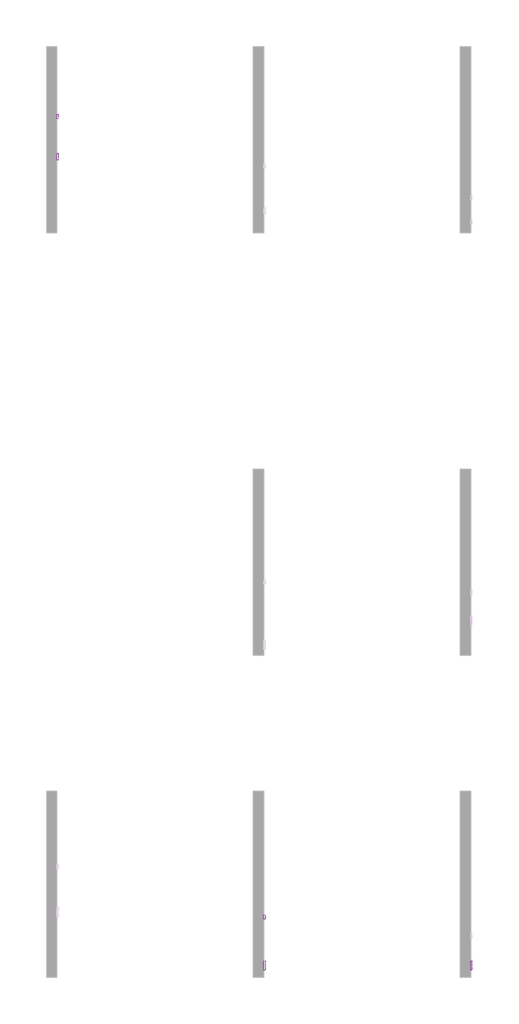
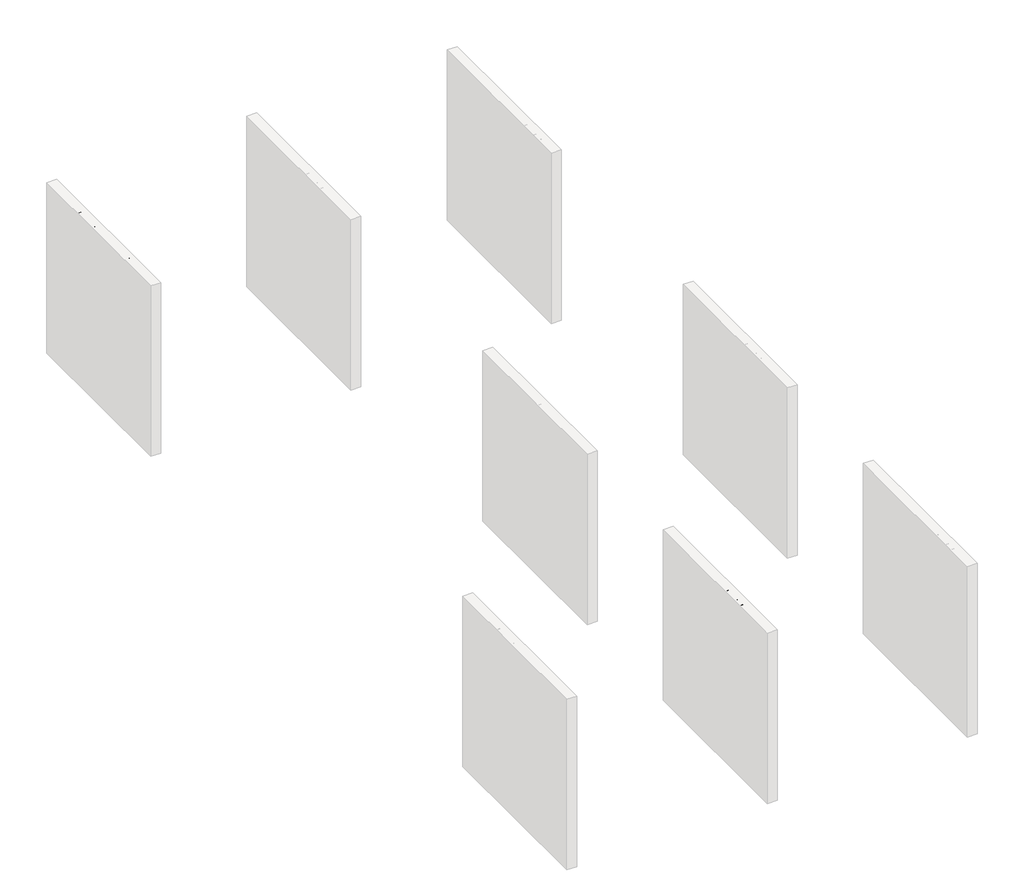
# One storey, part 7 of 12: 5 proxies.
"""IFC4 building model written with IfcOpenShell, lengths in millimetres."""

from ifc_helpers import new_model, si_unit, frame, origin, place, context, project, spatial, polyline, outline, extrude, element, save

model = new_model("IFC4")

# Units and contexts
model_context = context("Model", 3, world=origin())
ifc_project = project(units=[si_unit("LENGTHUNIT", "METRE", prefix="MILLI")], contexts=[model_context])

# Site, building, storey
site = spatial("IfcSite", under=ifc_project)
building = spatial("IfcBuilding", under=site)
storey = spatial("IfcBuildingStorey", under=building, Name="PORTOBELLO - SHOWROOM", Elevation=0.0)

# Proxies
placement = place(None, origin())
element("IfcBuildingElementProxy", 1, Name="10mm Arial", ObjectType="10mm Arial", at=placement, inside=storey, context=model_context, shape_type="SweptSolid", body=[
    extrude(outline(polyline([(12693.8323356, 2517.8467461), (12693.8323356, 2618.3030562), (12715.4392714, 2618.3030562), (12735.9916122, 2547.4980349), (12740.136416, 2532.7091787), (12744.6245764, 2548.7243082), (12764.8335607, 2618.3030562), (12786.4404965, 2618.3030562), (12786.4404965, 2517.8467461), (12773.8834577, 2517.8467461), (12773.8834577, 2605.7460174), (12748.6467529, 2517.8467461), (12731.6260792, 2517.8467461), (12706.3893744, 2605.7460174), (12706.3893744, 2517.8467461), (12693.8323356, 2517.8467461)])), frame((31348.9976597, 0.0, 0.0), z_axis=(1.0, 0.0, 0.0), x_axis=(0.0, 1.0, 0.0)), (0.0, 0.0, 1.0), 20.0),
    extrude(outline(polyline([(12803.7064248, 2554.7330474), (12806.4226202, 2572.5201419), (12814.5712064, 2585.0219984), (12824.6389103, 2591.1472336), (12836.693177, 2593.1889787), (12849.8848123, 2590.7027095), (12860.4215657, 2583.2439021), (12867.3285502, 2571.4011675), (12869.6308784, 2555.763117), (12865.5596509, 2533.4204172), (12853.701588, 2520.7775393), (12836.693177, 2516.2771162), (12823.3421263, 2518.7541883), (12812.8176356, 2526.1854046), (12805.9842275, 2538.2764595), (12803.7064248, 2554.7330474)]), holes=[polyline([(12816.2634636, 2554.7575729), (12817.7165975, 2543.3930849), (12822.0759991, 2535.2966154), (12828.6365614, 2530.4497701), (12836.693177, 2528.834155), (12844.7130045, 2530.4589671), (12851.2613041, 2535.3334036), (12855.6207057, 2543.537172), (12857.0738396, 2555.1499804), (12855.6115087, 2566.1833745), (12851.2245159, 2574.1694795), (12844.6670193, 2579.0163248), (12836.693177, 2580.6319399), (12828.6365614, 2579.0224562), (12822.0759991, 2574.194005), (12817.7165975, 2566.1159295), (12816.2634636, 2554.7575729)])]), frame((31348.9976597, 0.0, 0.0), z_axis=(1.0, 0.0, 0.0), x_axis=(0.0, 1.0, 0.0)), (0.0, 0.0, 1.0), 20.0),
    extrude(outline(polyline([(12879.0486574, 2539.8215639), (12891.6056962, 2541.3911937), (12897.4182317, 2532.0715165), (12910.7355599, 2528.834155), (12923.5378534, 2531.8017364), (12927.7071827, 2538.7669688), (12923.5133279, 2544.4078261), (12910.5884071, 2547.9885442), (12891.6792726, 2554.1321735), (12883.4264532, 2561.3058724), (12880.6182873, 2571.43489), (12882.8746302, 2580.7913554), (12889.0305222, 2587.9405289), (12897.0135615, 2591.656137), (12907.8170295, 2593.1889787), (12923.096395, 2590.7241693), (12932.8084797, 2584.0532424), (12937.1249617, 2572.7837907), (12924.567923, 2571.2141608), (12919.8467707, 2578.1426051), (12908.7980481, 2580.6319399), (12896.7805696, 2578.2529697), (12893.175326, 2572.7102143), (12894.6713795, 2569.0559198), (12899.3557436, 2566.2845421), (12910.1714742, 2563.6112663), (12928.6023622, 2557.7006289), (12937.1617499, 2551.0051765), (12940.2642214, 2540.091344), (12936.6221897, 2528.0738655), (12926.1130273, 2519.3550622), (12910.5638817, 2516.2771162), (12897.9026097, 2517.7609069), (12888.6626402, 2522.2122791), (12882.4944854, 2529.5821817), (12879.0486574, 2539.8215639)])), frame((31348.9976597, 0.0, 0.0), z_axis=(1.0, 0.0, 0.0), x_axis=(0.0, 1.0, 0.0)), (0.0, 0.0, 1.0), 20.0),
    extrude(outline(polyline([(13042.2901614, 2557.0874922), (13042.2901614, 2569.644531), (13083.1005374, 2569.644531), (13083.1005374, 2532.096042), (13062.9528668, 2520.2502418), (13041.6524993, 2516.2771162), (13027.5656846, 2517.8559431), (13014.8339018, 2522.5924238), (13004.2572945, 2530.3210114), (12996.6360058, 2540.8761589), (12992.0282838, 2553.537431), (12990.4923765, 2567.5843918), (12992.0221525, 2581.7325202), (12996.6114804, 2594.8934986), (13004.0702878, 2605.9330241), (13014.2085025, 2613.716794), (13026.5570748, 2618.333713), (13040.6469552, 2619.872686), (13060.2918537, 2616.3042307), (13074.0629031, 2606.3714168), (13081.6535349, 2589.7554134), (13070.0775148, 2586.4935264), (13064.3508184, 2598.1063347), (13054.5651573, 2604.801787), (13040.4507514, 2607.3156473), (13024.3743083, 2604.6055832), (13013.4359503, 2597.493198), (13006.9734899, 2587.8179015), (13003.0494153, 2568.0994266), (13007.7705675, 2546.2104479), (13021.5048287, 2533.1138489), (13040.6469552, 2528.834155), (13057.8270444, 2532.0592538), (13070.5434987, 2538.9386471), (13070.5434987, 2557.0874922), (13042.2901614, 2557.0874922)])), frame((31348.9976597, 0.0, 0.0), z_axis=(1.0, 0.0, 0.0), x_axis=(0.0, 1.0, 0.0)), (0.0, 0.0, 1.0), 20.0),
    extrude(outline(polyline([(13149.024991, 2527.2645251), (13136.8480969, 2518.7541883), (13123.3958786, 2516.2771162), (13112.9020447, 2517.7670383), (13105.1611944, 2522.2368045), (13100.3879255, 2529.0242273), (13098.7968359, 2537.4671191), (13101.2003316, 2547.399933), (13107.5156392, 2554.6104201), (13116.3080189, 2558.7306984), (13127.1728004, 2560.6191594), (13148.9514146, 2564.9356414), (13149.024991, 2567.7315446), (13145.5669002, 2577.0021709), (13131.6854862, 2580.6319399), (13118.9812947, 2578.2161815), (13112.9235045, 2569.644531), (13100.3664657, 2571.2141608), (13105.7988565, 2583.476894), (13116.7372145, 2590.6628556), (13133.304167, 2593.1889787), (13148.5222189, 2590.9571612), (13157.1183948, 2585.3530922), (13160.9688931, 2576.8304926), (13161.5820297, 2565.8430837), (13161.5820297, 2550.2203616), (13162.2196918, 2528.4049593), (13164.7212894, 2517.8467461), (13152.1642506, 2517.8467461), (13149.024991, 2527.2645251)]), holes=[polyline([(13149.024991, 2552.3786027), (13128.7669558, 2548.5281044), (13117.9634878, 2546.4924907), (13113.0706573, 2543.1815528), (13111.3538746, 2538.3500359), (13115.0940083, 2531.5564817), (13126.0691545, 2528.834155), (13138.773346, 2531.8385246), (13146.9648518, 2539.1103254), (13148.9514146, 2548.82241), (13149.024991, 2552.3786027)])]), frame((31348.9976597, 0.0, 0.0), z_axis=(1.0, 0.0, 0.0), x_axis=(0.0, 1.0, 0.0)), (0.0, 0.0, 1.0), 20.0),
    extrude(outline(polyline([(13178.847958, 2517.8467461), (13178.847958, 2591.6193488), (13189.835367, 2591.6193488), (13189.835367, 2580.7055163), (13197.6344653, 2590.7609575), (13205.4826145, 2593.1889787), (13218.0887042, 2589.313955), (13213.8948494, 2578.0567659), (13205.0656816, 2580.6319399), (13197.965559, 2578.1548678), (13193.4406105, 2571.2877372), (13191.4049968, 2556.6215083), (13191.4049968, 2517.8467461), (13178.847958, 2517.8467461)])), frame((31348.9976597, 0.0, 0.0), z_axis=(1.0, 0.0, 0.0), x_axis=(0.0, 1.0, 0.0)), (0.0, 0.0, 1.0), 20.0),
    extrude(outline(polyline([(13252.6205608, 2528.3191202), (13254.1901906, 2517.4788641), (13244.796937, 2516.2771162), (13234.275512, 2518.3617808), (13229.0270622, 2523.8309598), (13227.5064833, 2538.0802558), (13227.5064833, 2579.06231), (13218.0887042, 2579.06231), (13218.0887042, 2589.313955), (13218.0887042, 2591.6193488), (13227.5064833, 2591.6193488), (13227.5064833, 2609.5474647), (13240.063522, 2616.9296301), (13240.063522, 2591.6193488), (13252.6205608, 2591.6193488), (13252.6205608, 2579.06231), (13240.063522, 2579.06231), (13240.063522, 2538.4481378), (13240.7257096, 2531.9734147), (13242.8716879, 2529.6802836), (13247.1513818, 2528.834155), (13252.6205608, 2528.3191202)])), frame((31348.9976597, 0.0, 0.0), z_axis=(1.0, 0.0, 0.0), x_axis=(0.0, 1.0, 0.0)), (0.0, 0.0, 1.0), 20.0),
    extrude(outline(polyline([(13316.8282317, 2539.8215639), (13329.1400158, 2538.2519341), (13324.7039721, 2528.9751764), (13317.6253093, 2522.0406008), (13308.0634432, 2517.7179874), (13296.177789, 2516.2771162), (13281.4441151, 2518.7633854), (13270.1072183, 2526.2221928), (13262.8783371, 2538.1691606), (13260.46871, 2554.1199108), (13262.9028626, 2570.6071555), (13270.2053202, 2582.9373337), (13281.3889328, 2590.6260674), (13295.4665505, 2593.1889787), (13309.1057755, 2590.6321988), (13320.0042796, 2582.9618592), (13327.1503873, 2570.6562065), (13329.5324233, 2554.1934872), (13329.4588469, 2550.8089728), (13273.0257488, 2550.8089728), (13275.1993183, 2541.4095878), (13280.2484986, 2534.4995377), (13287.5356278, 2530.2505007), (13296.4230437, 2528.834155), (13308.7348278, 2531.4583799), (13316.8282317, 2539.8215639)]), holes=[polyline([(13273.0257488, 2563.3660116), (13316.9753845, 2563.3660116), (13311.9476639, 2574.745828), (13304.6268122, 2579.1604119), (13295.4174996, 2580.6319399), (13279.954193, 2575.9353131), (13275.0889537, 2570.4446743), (13273.0257488, 2563.3660116)])]), frame((31348.9976597, 0.0, 0.0), z_axis=(1.0, 0.0, 0.0), x_axis=(0.0, 1.0, 0.0)), (0.0, 0.0, 1.0), 20.0),
    extrude(outline(polyline([(13342.089462, 2517.8467461), (13342.089462, 2591.6193488), (13354.6465008, 2591.6193488), (13354.6465008, 2581.318653), (13364.2482209, 2590.2213972), (13377.3570826, 2593.1889787), (13389.2151456, 2590.7977457), (13397.3085495, 2584.5192263), (13401.0732086, 2575.2853882), (13401.7353962, 2563.1452824), (13401.7353962, 2517.8467461), (13389.1783574, 2517.8467461), (13389.1783574, 2561.4530252), (13387.7313549, 2572.5630615), (13382.6177952, 2578.4369107), (13373.9970937, 2580.6319399), (13360.3731972, 2575.7023212), (13356.0781749, 2568.5592791), (13354.6465008, 2556.9893903), (13354.6465008, 2517.8467461), (13342.089462, 2517.8467461)])), frame((31348.9976597, 0.0, 0.0), z_axis=(1.0, 0.0, 0.0), x_axis=(0.0, 1.0, 0.0)), (0.0, 0.0, 1.0), 20.0),
    extrude(outline(polyline([(13451.9635512, 2517.8467461), (13451.9635512, 2530.8697687), (13503.3444032, 2593.7775899), (13513.1055388, 2605.7460174), (13458.2420706, 2605.7460174), (13458.2420706, 2618.3030562), (13528.8754137, 2618.3030562), (13528.8754137, 2605.7460174), (13472.6385194, 2536.9030334), (13467.3410186, 2530.4037848), (13530.4450436, 2530.4037848), (13530.4450436, 2517.8467461), (13451.9635512, 2517.8467461)])), frame((31348.9976597, 0.0, 0.0), z_axis=(1.0, 0.0, 0.0), x_axis=(0.0, 1.0, 0.0)), (0.0, 0.0, 1.0), 20.0),
    extrude(outline(polyline([(13594.6527144, 2539.8215639), (13606.9644986, 2538.2519341), (13602.5284548, 2528.9751764), (13595.4497921, 2522.0406008), (13585.8879259, 2517.7179874), (13574.0022718, 2516.2771162), (13559.2685979, 2518.7633854), (13547.9317011, 2526.2221928), (13540.7028199, 2538.1691606), (13538.2931928, 2554.1199108), (13540.7273453, 2570.6071555), (13548.0298029, 2582.9373337), (13559.2134156, 2590.6260674), (13573.2910333, 2593.1889787), (13586.9302582, 2590.6321988), (13597.8287623, 2582.9618592), (13604.9748701, 2570.6562065), (13607.356906, 2554.1934872), (13607.2833296, 2550.8089728), (13550.8502316, 2550.8089728), (13553.023801, 2541.4095878), (13558.0729814, 2534.4995377), (13565.3601106, 2530.2505007), (13574.2475264, 2528.834155), (13586.5593106, 2531.4583799), (13594.6527144, 2539.8215639)]), holes=[polyline([(13550.8502316, 2563.3660116), (13594.7998672, 2563.3660116), (13589.7721466, 2574.745828), (13582.4512949, 2579.1604119), (13573.2419823, 2580.6319399), (13557.7786758, 2575.9353131), (13552.9134364, 2570.4446743), (13550.8502316, 2563.3660116)])]), frame((31348.9976597, 0.0, 0.0), z_axis=(1.0, 0.0, 0.0), x_axis=(0.0, 1.0, 0.0)), (0.0, 0.0, 1.0), 20.0),
    extrude(outline(polyline([(13619.9139448, 2517.8467461), (13619.9139448, 2591.6193488), (13632.4709835, 2591.6193488), (13632.4709835, 2579.479243), (13641.1039477, 2589.4243196), (13653.3912063, 2593.1889787), (13665.9727706, 2589.3507432), (13672.8889521, 2578.5963262), (13682.6868759, 2589.5408155), (13695.0599737, 2593.1889787), (13704.4992125, 2591.6714654), (13711.4797734, 2587.1189257), (13715.7931898, 2579.4087323), (13717.2309952, 2568.4182577), (13717.2309952, 2517.8467461), (13704.6739565, 2517.8467461), (13704.6739565, 2563.0226551), (13703.5089968, 2573.5072919), (13699.2906166, 2578.6699026), (13692.1169177, 2580.6319399), (13679.7683454, 2575.6042193), (13676.0803284, 2569.0620511), (13674.8509894, 2559.4909879), (13674.8509894, 2517.8467461), (13662.2939506, 2517.8467461), (13662.2939506, 2564.4206066), (13659.3876829, 2576.5852379), (13649.8595392, 2580.6319399), (13640.5643874, 2577.9341386), (13634.3839699, 2570.0369384), (13632.4709835, 2555.0518785), (13632.4709835, 2517.8467461), (13619.9139448, 2517.8467461)])), frame((31348.9976597, 0.0, 0.0), z_axis=(1.0, 0.0, 0.0), x_axis=(0.0, 1.0, 0.0)), (0.0, 0.0, 1.0), 20.0),
    extrude(outline(polyline([(13787.7171855, 2539.8215639), (13800.0289696, 2538.2519341), (13795.5929259, 2528.9751764), (13788.5142632, 2522.0406008), (13778.952397, 2517.7179874), (13767.0667429, 2516.2771162), (13752.3330689, 2518.7633854), (13740.9961721, 2526.2221928), (13733.7672909, 2538.1691606), (13731.3576639, 2554.1199108), (13733.7918164, 2570.6071555), (13741.094274, 2582.9373337), (13752.2778866, 2590.6260674), (13766.3555043, 2593.1889787), (13779.9947293, 2590.6321988), (13790.8932334, 2582.9618592), (13798.0393412, 2570.6562065), (13800.4213771, 2554.1934872), (13800.3478007, 2550.8089728), (13743.9147026, 2550.8089728), (13746.0882721, 2541.4095878), (13751.1374525, 2534.4995377), (13758.4245816, 2530.2505007), (13767.3119975, 2528.834155), (13779.6237816, 2531.4583799), (13787.7171855, 2539.8215639)]), holes=[polyline([(13743.9147026, 2563.3660116), (13787.8643383, 2563.3660116), (13782.8366177, 2574.745828), (13775.515766, 2579.1604119), (13766.3064534, 2580.6319399), (13750.8431469, 2575.9353131), (13745.9779075, 2570.4446743), (13743.9147026, 2563.3660116)])]), frame((31348.9976597, 0.0, 0.0), z_axis=(1.0, 0.0, 0.0), x_axis=(0.0, 1.0, 0.0)), (0.0, 0.0, 1.0), 20.0),
    extrude(outline(polyline([(13812.9784158, 2517.8467461), (13812.9784158, 2591.6193488), (13825.5354546, 2591.6193488), (13825.5354546, 2581.318653), (13835.1371747, 2590.2213972), (13848.2460365, 2593.1889787), (13860.1040994, 2590.7977457), (13868.1975033, 2584.5192263), (13871.9621624, 2575.2853882), (13872.62435, 2563.1452824), (13872.62435, 2517.8467461), (13860.0673112, 2517.8467461), (13860.0673112, 2561.4530252), (13858.6203087, 2572.5630615), (13853.506749, 2578.4369107), (13844.8860476, 2580.6319399), (13831.262151, 2575.7023212), (13826.9671287, 2568.5592791), (13825.5354546, 2556.9893903), (13825.5354546, 2517.8467461), (13812.9784158, 2517.8467461)])), frame((31348.9976597, 0.0, 0.0), z_axis=(1.0, 0.0, 0.0), x_axis=(0.0, 1.0, 0.0)), (0.0, 0.0, 1.0), 20.0),
    extrude(outline(polyline([(13916.5739857, 2528.3191202), (13918.1436155, 2517.4788641), (13908.7503619, 2516.2771162), (13898.2289369, 2518.3617808), (13892.9804871, 2523.8309598), (13891.4599082, 2538.0802558), (13891.4599082, 2579.06231), (13882.0421291, 2579.06231), (13882.0421291, 2591.6193488), (13891.4599082, 2591.6193488), (13891.4599082, 2609.5474647), (13904.0169469, 2616.9296301), (13904.0169469, 2591.6193488), (13916.5739857, 2591.6193488), (13916.5739857, 2579.06231), (13904.0169469, 2579.06231), (13904.0169469, 2538.4481378), (13904.6791345, 2531.9734147), (13906.8251128, 2529.6802836), (13911.1048067, 2528.834155), (13916.5739857, 2528.3191202)])), frame((31348.9976597, 0.0, 0.0), z_axis=(1.0, 0.0, 0.0), x_axis=(0.0, 1.0, 0.0)), (0.0, 0.0, 1.0), 20.0),
    extrude(outline(polyline([(13969.9414005, 2517.8467461), (13969.9414005, 2618.3030562), (13991.5483363, 2618.3030562), (14012.1006771, 2547.4980349), (14016.2454809, 2532.7091787), (14020.7336413, 2548.7243082), (14040.9426255, 2618.3030562), (14062.5495614, 2618.3030562), (14062.5495614, 2517.8467461), (14049.9925226, 2517.8467461), (14049.9925226, 2605.7460174), (14024.7558177, 2517.8467461), (14007.7351441, 2517.8467461), (13982.4984392, 2605.7460174), (13982.4984392, 2517.8467461), (13969.9414005, 2517.8467461)])), frame((31348.9976597, 0.0, 0.0), z_axis=(1.0, 0.0, 0.0), x_axis=(0.0, 1.0, 0.0)), (0.0, 0.0, 1.0), 20.0),
    extrude(outline(polyline([(31368.9976597, 14095.5117881), (31368.9976597, 14082.9547494), (31348.9976597, 14082.9547494), (31348.9976597, 14095.5117881), (31368.9976597, 14095.5117881)])), frame((0.0, 0.0, 2605.7460174), z_axis=(0.0, 0.0, 1.0), x_axis=(1.0, 0.0, 0.0)), (0.0, 0.0, 1.0), 12.5570388),
    extrude(outline(polyline([(31368.9976597, 14095.5117881), (31368.9976597, 14082.9547494), (31348.9976597, 14082.9547494), (31348.9976597, 14095.5117881), (31368.9976597, 14095.5117881)])), frame((0.0, 0.0, 2517.8467461), z_axis=(0.0, 0.0, 1.0), x_axis=(1.0, 0.0, 0.0)), (0.0, 0.0, 1.0), 73.7726028),
    extrude(outline(polyline([(14106.4991971, 2517.8467461), (14133.3300572, 2554.9292512), (14108.0688269, 2591.6193488), (14123.1765142, 2591.6193488), (14135.365671, 2573.961013), (14141.0555791, 2565.6223545), (14145.9851979, 2572.4404341), (14159.8666118, 2591.6193488), (14174.9742991, 2591.6193488), (14148.4377445, 2554.9292512), (14173.9932804, 2517.8467461), (14158.8855932, 2517.8467461), (14143.5081258, 2540.140395), (14140.6876972, 2544.2116224), (14121.6068843, 2517.8467461), (14106.4991971, 2517.8467461)])), frame((31348.9976597, 0.0, 0.0), z_axis=(1.0, 0.0, 0.0), x_axis=(0.0, 1.0, 0.0)), (0.0, 0.0, 1.0), 20.0),
])
element("IfcBuildingElementProxy", 2, Name="10mm Arial", ObjectType="10mm Arial", at=placement, inside=storey, context=model_context, shape_type="SweptSolid", body=[
    extrude(outline(polyline([(1899.8415479, 2518.9109306), (1872.446602, 2619.3672407), (1885.3960482, 2619.3672407), (1901.2885504, 2553.3446853), (1906.1936437, 2532.9640228), (1911.4420935, 2550.9902405), (1931.3567721, 2619.3672407), (1950.020652, 2619.3672407), (1964.4906772, 2569.8012732), (1975.2573569, 2532.9640228), (1980.0152974, 2552.7560741), (1996.0549524, 2619.3672407), (2009.0043986, 2619.3672407), (1981.5849272, 2518.9109306), (1968.1694971, 2518.9109306), (1944.0854892, 2596.4114042), (1940.7255003, 2607.2271349), (1936.9485785, 2594.2041122), (1914.9982861, 2518.9109306), (1899.8415479, 2518.9109306)])), frame((34348.7766485, 0.0, 0.0), z_axis=(1.0, 0.0, 0.0), x_axis=(0.0, 1.0, 0.0)), (0.0, 0.0, 1.0), 20.0),
    extrude(outline(polyline([(2071.6424396, 2540.8857484), (2083.9542237, 2539.3161186), (2079.51818, 2530.0393609), (2072.4395173, 2523.1047853), (2062.8776511, 2518.7821719), (2050.991997, 2517.3413007), (2036.2583231, 2519.8275699), (2024.9214262, 2527.2863773), (2017.692545, 2539.2333451), (2015.282918, 2555.1840953), (2017.7170705, 2571.67134), (2025.0195281, 2584.0015182), (2036.2031408, 2591.6902519), (2050.2807584, 2594.2531632), (2063.9199834, 2591.6963833), (2074.8184875, 2584.0260437), (2081.9645953, 2571.720391), (2084.3466312, 2555.2576717), (2084.2730548, 2551.8731573), (2027.8399567, 2551.8731573), (2030.0135262, 2542.4737723), (2035.0627066, 2535.5637222), (2042.3498358, 2531.3146852), (2051.2372516, 2529.8983395), (2063.5490357, 2532.5225644), (2071.6424396, 2540.8857484)]), holes=[polyline([(2027.8399567, 2564.4301961), (2071.7895924, 2564.4301961), (2066.7618718, 2575.8100125), (2059.4410201, 2580.2245964), (2050.2317075, 2581.6961244), (2034.768401, 2576.9994976), (2029.9031616, 2571.5088588), (2027.8399567, 2564.4301961)])]), frame((34348.7766485, 0.0, 0.0), z_axis=(1.0, 0.0, 0.0), x_axis=(0.0, 1.0, 0.0)), (0.0, 0.0, 1.0), 20.0),
    extrude(outline(polyline([(34368.7766485, 2109.4607087), (34368.7766485, 2096.90367), (34348.7766485, 2096.90367), (34348.7766485, 2109.4607087), (34368.7766485, 2109.4607087)])), frame((0.0, 0.0, 2606.8102019), z_axis=(0.0, 0.0, 1.0), x_axis=(1.0, 0.0, 0.0)), (0.0, 0.0, 1.0), 12.5570388),
    extrude(outline(polyline([(34368.7766485, 2109.4607087), (34368.7766485, 2096.90367), (34348.7766485, 2096.90367), (34348.7766485, 2109.4607087), (34368.7766485, 2109.4607087)])), frame((0.0, 0.0, 2518.9109306), z_axis=(0.0, 0.0, 1.0), x_axis=(1.0, 0.0, 0.0)), (0.0, 0.0, 1.0), 73.7726028),
    extrude(outline(polyline([(2123.5873774, 2540.8857484), (2136.1444161, 2542.4553783), (2141.9569516, 2533.135701), (2155.2742799, 2529.8983395), (2168.0765733, 2532.8659209), (2172.2459026, 2539.8311534), (2168.0520478, 2545.4720106), (2155.1271271, 2549.0527287), (2136.2179925, 2555.196358), (2127.9651731, 2562.3700569), (2125.1570072, 2572.4990745), (2127.4133501, 2581.8555399), (2133.5692422, 2589.0047134), (2141.5522814, 2592.7203215), (2152.3557494, 2594.2531632), (2167.6351149, 2591.7883538), (2177.3471996, 2585.117427), (2181.6636817, 2573.8479752), (2169.1066429, 2572.2783453), (2164.3854906, 2579.2067896), (2153.336768, 2581.6961244), (2141.3192895, 2579.3171542), (2137.714046, 2573.7743988), (2139.2100994, 2570.1201043), (2143.8944635, 2567.3487266), (2154.7101941, 2564.6754508), (2173.1410821, 2558.7648134), (2181.7004699, 2552.0693611), (2184.8029413, 2541.1555285), (2181.1609096, 2529.13805), (2170.6517473, 2520.4192467), (2155.1026016, 2517.3413007), (2142.4413296, 2518.8250914), (2133.2013602, 2523.2764636), (2127.0332054, 2530.6463662), (2123.5873774, 2540.8857484)])), frame((34348.7766485, 0.0, 0.0), z_axis=(1.0, 0.0, 0.0), x_axis=(0.0, 1.0, 0.0)), (0.0, 0.0, 1.0), 20.0),
    extrude(outline(polyline([(2194.2207204, 2540.8857484), (2206.7777592, 2542.4553783), (2212.5902947, 2533.135701), (2225.9076229, 2529.8983395), (2238.7099164, 2532.8659209), (2242.8792457, 2539.8311534), (2238.6853909, 2545.4720106), (2225.7604701, 2549.0527287), (2206.8513356, 2555.196358), (2198.5985162, 2562.3700569), (2195.7903503, 2572.4990745), (2198.0466932, 2581.8555399), (2204.2025852, 2589.0047134), (2212.1856245, 2592.7203215), (2222.9890924, 2594.2531632), (2238.268458, 2591.7883538), (2247.9805427, 2585.117427), (2252.2970247, 2573.8479752), (2239.739986, 2572.2783453), (2235.0188337, 2579.2067896), (2223.9701111, 2581.6961244), (2211.9526326, 2579.3171542), (2208.347389, 2573.7743988), (2209.8434425, 2570.1201043), (2214.5278066, 2567.3487266), (2225.3435372, 2564.6754508), (2243.7744252, 2558.7648134), (2252.3338129, 2552.0693611), (2255.4362844, 2541.1555285), (2251.7942527, 2529.13805), (2241.2850903, 2520.4192467), (2225.7359447, 2517.3413007), (2213.0746727, 2518.8250914), (2203.8347032, 2523.2764636), (2197.6665484, 2530.6463662), (2194.2207204, 2540.8857484)])), frame((34348.7766485, 0.0, 0.0), z_axis=(1.0, 0.0, 0.0), x_axis=(0.0, 1.0, 0.0)), (0.0, 0.0, 1.0), 20.0),
    extrude(outline(polyline([(2310.373329, 2518.9109306), (2310.373329, 2619.3672407), (2322.9303678, 2619.3672407), (2322.9303678, 2531.4679693), (2373.1585229, 2531.4679693), (2373.1585229, 2518.9109306), (2310.373329, 2518.9109306)])), frame((34348.7766485, 0.0, 0.0), z_axis=(1.0, 0.0, 0.0), x_axis=(0.0, 1.0, 0.0)), (0.0, 0.0, 1.0), 20.0),
    extrude(outline(polyline([(34368.7766485, 2398.2726004), (34368.7766485, 2385.7155616), (34348.7766485, 2385.7155616), (34348.7766485, 2398.2726004), (34368.7766485, 2398.2726004)])), frame((0.0, 0.0, 2606.8102019), z_axis=(0.0, 0.0, 1.0), x_axis=(1.0, 0.0, 0.0)), (0.0, 0.0, 1.0), 12.5570388),
    extrude(outline(polyline([(34368.7766485, 2398.2726004), (34368.7766485, 2385.7155616), (34348.7766485, 2385.7155616), (34348.7766485, 2398.2726004), (34368.7766485, 2398.2726004)])), frame((0.0, 0.0, 2518.9109306), z_axis=(0.0, 0.0, 1.0), x_axis=(1.0, 0.0, 0.0)), (0.0, 0.0, 1.0), 73.7726028),
    extrude(outline(polyline([(2417.1081586, 2518.9109306), (2417.1081586, 2592.6835333), (2429.6651973, 2592.6835333), (2429.6651973, 2582.3828375), (2439.2669174, 2591.2855817), (2452.3757792, 2594.2531632), (2464.2338422, 2591.8619302), (2472.327246, 2585.5834108), (2476.0919051, 2576.3495727), (2476.7540927, 2564.2094669), (2476.7540927, 2518.9109306), (2464.197054, 2518.9109306), (2464.197054, 2562.5172097), (2462.7500514, 2573.627246), (2457.6364917, 2579.5010952), (2449.0157903, 2581.6961244), (2435.3918937, 2576.7665057), (2431.0968714, 2569.6234636), (2429.6651973, 2558.0535748), (2429.6651973, 2518.9109306), (2417.1081586, 2518.9109306)])), frame((34348.7766485, 0.0, 0.0), z_axis=(1.0, 0.0, 0.0), x_axis=(0.0, 1.0, 0.0)), (0.0, 0.0, 1.0), 20.0),
    extrude(outline(polyline([(2545.6706532, 2540.8857484), (2557.9824373, 2539.3161186), (2553.5463935, 2530.0393609), (2546.4677308, 2523.1047853), (2536.9058646, 2518.7821719), (2525.0202105, 2517.3413007), (2510.2865366, 2519.8275699), (2498.9496398, 2527.2863773), (2491.7207586, 2539.2333451), (2489.3111315, 2555.1840953), (2491.745284, 2571.67134), (2499.0477416, 2584.0015182), (2510.2313543, 2591.6902519), (2524.308972, 2594.2531632), (2537.9481969, 2591.6963833), (2548.846701, 2584.0260437), (2555.9928088, 2571.720391), (2558.3748447, 2555.2576717), (2558.3012683, 2551.8731573), (2501.8681703, 2551.8731573), (2504.0417397, 2542.4737723), (2509.0909201, 2535.5637222), (2516.3780493, 2531.3146852), (2525.2654652, 2529.8983395), (2537.5772493, 2532.5225644), (2545.6706532, 2540.8857484)]), holes=[polyline([(2501.8681703, 2564.4301961), (2545.8178059, 2564.4301961), (2540.7900853, 2575.8100125), (2533.4692336, 2580.2245964), (2524.259921, 2581.6961244), (2508.7966145, 2576.9994976), (2503.9313751, 2571.5088588), (2501.8681703, 2564.4301961)])]), frame((34348.7766485, 0.0, 0.0), z_axis=(1.0, 0.0, 0.0), x_axis=(0.0, 1.0, 0.0)), (0.0, 0.0, 1.0), 20.0),
])
element("IfcBuildingElementProxy", 3, Name="10mm Arial", ObjectType="10mm Arial", at=placement, inside=storey, context=model_context, shape_type="SweptSolid", body=[
    extrude(outline(polyline([(1899.8415479, 2521.8608633), (1872.446602, 2622.3171735), (1885.3960482, 2622.3171735), (1901.2885504, 2556.2946181), (1906.1936437, 2535.9139555), (1911.4420935, 2553.9401733), (1931.3567721, 2622.3171735), (1950.020652, 2622.3171735), (1964.4906772, 2572.751206), (1975.2573569, 2535.9139555), (1980.0152974, 2555.7060069), (1996.0549524, 2622.3171735), (2009.0043986, 2622.3171735), (1981.5849272, 2521.8608633), (1968.1694971, 2521.8608633), (1944.0854892, 2599.361337), (1940.7255003, 2610.1770676), (1936.9485785, 2597.154045), (1914.9982861, 2521.8608633), (1899.8415479, 2521.8608633)])), frame((37348.7766485, 0.0, 0.0), z_axis=(1.0, 0.0, 0.0), x_axis=(0.0, 1.0, 0.0)), (0.0, 0.0, 1.0), 20.0),
    extrude(outline(polyline([(2071.6424396, 2543.8356812), (2083.9542237, 2542.2660513), (2079.51818, 2532.9892937), (2072.4395173, 2526.0547181), (2062.8776511, 2521.7321046), (2050.991997, 2520.2912335), (2036.2583231, 2522.7775026), (2024.9214262, 2530.2363101), (2017.692545, 2542.1832779), (2015.282918, 2558.134028), (2017.7170705, 2574.6212728), (2025.0195281, 2586.951451), (2036.2031408, 2594.6401847), (2050.2807584, 2597.2030959), (2063.9199834, 2594.6463161), (2074.8184875, 2586.9759765), (2081.9645953, 2574.6703237), (2084.3466312, 2558.2076044), (2084.2730548, 2554.8230901), (2027.8399567, 2554.8230901), (2030.0135262, 2545.4237051), (2035.0627066, 2538.513655), (2042.3498358, 2534.2646179), (2051.2372516, 2532.8482722), (2063.5490357, 2535.4724971), (2071.6424396, 2543.8356812)]), holes=[polyline([(2027.8399567, 2567.3801288), (2071.7895924, 2567.3801288), (2066.7618718, 2578.7599452), (2059.4410201, 2583.1745292), (2050.2317075, 2584.6460572), (2034.768401, 2579.9494303), (2029.9031616, 2574.4587916), (2027.8399567, 2567.3801288)])]), frame((37348.7766485, 0.0, 0.0), z_axis=(1.0, 0.0, 0.0), x_axis=(0.0, 1.0, 0.0)), (0.0, 0.0, 1.0), 20.0),
    extrude(outline(polyline([(37368.7766485, 2109.4607087), (37368.7766485, 2096.90367), (37348.7766485, 2096.90367), (37348.7766485, 2109.4607087), (37368.7766485, 2109.4607087)])), frame((0.0, 0.0, 2609.7601347), z_axis=(0.0, 0.0, 1.0), x_axis=(1.0, 0.0, 0.0)), (0.0, 0.0, 1.0), 12.5570388),
    extrude(outline(polyline([(37368.7766485, 2109.4607087), (37368.7766485, 2096.90367), (37348.7766485, 2096.90367), (37348.7766485, 2109.4607087), (37368.7766485, 2109.4607087)])), frame((0.0, 0.0, 2521.8608633), z_axis=(0.0, 0.0, 1.0), x_axis=(1.0, 0.0, 0.0)), (0.0, 0.0, 1.0), 73.7726028),
    extrude(outline(polyline([(2123.5873774, 2543.8356812), (2136.1444161, 2545.405311), (2141.9569516, 2536.0856338), (2155.2742799, 2532.8482722), (2168.0765733, 2535.8158537), (2172.2459026, 2542.7810861), (2168.0520478, 2548.4219434), (2155.1271271, 2552.0026614), (2136.2179925, 2558.1462908), (2127.9651731, 2565.3199897), (2125.1570072, 2575.4490073), (2127.4133501, 2584.8054727), (2133.5692422, 2591.9546461), (2141.5522815, 2595.6702543), (2152.3557494, 2597.2030959), (2167.6351149, 2594.7382866), (2177.3471996, 2588.0673597), (2181.6636817, 2576.7979079), (2169.1066429, 2575.2282781), (2164.3854906, 2582.1567223), (2153.336768, 2584.6460572), (2141.3192895, 2582.2670869), (2137.714046, 2576.7243315), (2139.2100994, 2573.070037), (2143.8944635, 2570.2986593), (2154.7101941, 2567.6253835), (2173.1410821, 2561.7147461), (2181.7004699, 2555.0192938), (2184.8029414, 2544.1054613), (2181.1609096, 2532.0879828), (2170.6517473, 2523.3691795), (2155.1026016, 2520.2912335), (2142.4413296, 2521.7750242), (2133.2013602, 2526.2263963), (2127.0332054, 2533.596299), (2123.5873774, 2543.8356812)])), frame((37348.7766485, 0.0, 0.0), z_axis=(1.0, 0.0, 0.0), x_axis=(0.0, 1.0, 0.0)), (0.0, 0.0, 1.0), 20.0),
    extrude(outline(polyline([(2194.2207204, 2543.8356812), (2206.7777592, 2545.405311), (2212.5902947, 2536.0856338), (2225.9076229, 2532.8482722), (2238.7099164, 2535.8158537), (2242.8792457, 2542.7810861), (2238.6853909, 2548.4219434), (2225.7604701, 2552.0026614), (2206.8513356, 2558.1462908), (2198.5985162, 2565.3199897), (2195.7903503, 2575.4490073), (2198.0466932, 2584.8054727), (2204.2025852, 2591.9546461), (2212.1856245, 2595.6702543), (2222.9890924, 2597.2030959), (2238.268458, 2594.7382866), (2247.9805427, 2588.0673597), (2252.2970247, 2576.7979079), (2239.739986, 2575.2282781), (2235.0188337, 2582.1567223), (2223.9701111, 2584.6460572), (2211.9526326, 2582.2670869), (2208.347389, 2576.7243315), (2209.8434425, 2573.070037), (2214.5278066, 2570.2986593), (2225.3435372, 2567.6253835), (2243.7744252, 2561.7147461), (2252.3338129, 2555.0192938), (2255.4362844, 2544.1054613), (2251.7942527, 2532.0879828), (2241.2850903, 2523.3691795), (2225.7359447, 2520.2912335), (2213.0746727, 2521.7750242), (2203.8347032, 2526.2263963), (2197.6665484, 2533.596299), (2194.2207204, 2543.8356812)])), frame((37348.7766485, 0.0, 0.0), z_axis=(1.0, 0.0, 0.0), x_axis=(0.0, 1.0, 0.0)), (0.0, 0.0, 1.0), 20.0),
])
element("IfcBuildingElementProxy", 4, Name="10mm Arial Narrow", ObjectType="10mm Arial Narrow", at=placement, inside=storey, context=model_context, shape_type="SweptSolid", body=[
    extrude(outline(polyline([(14220.9673947, 2517.8467461), (14220.9673947, 2618.5653498), (14252.2642794, 2618.5653498), (14268.5599809, 2616.6870291), (14280.032967, 2607.2065859), (14284.3226455, 2590.1874771), (14282.5363371, 2578.1116515), (14277.1774119, 2568.4852578), (14267.433623, 2562.1839994), (14252.4927238, 2560.0835799), (14230.7143564, 2560.0835799), (14230.7143564, 2517.8467461), (14220.9673947, 2517.8467461)]), holes=[polyline([(14230.7143564, 2571.4550351), (14253.6857113, 2571.4550351), (14269.5499067, 2575.9858494), (14274.5756838, 2589.6544401), (14272.1008693, 2599.8202165), (14266.1232405, 2605.6201664), (14253.4572669, 2607.1938945), (14230.7143564, 2607.1938945), (14230.7143564, 2571.4550351)])]), frame((31348.9976597, 0.0, 0.0), z_axis=(1.0, 0.0, 0.0), x_axis=(0.0, 1.0, 0.0)), (0.0, 0.0, 1.0), 20.0),
    extrude(outline(polyline([(14292.4451135, 2554.3978523), (14294.3995824, 2570.9886278), (14300.262989, 2582.9407126), (14309.1215557, 2590.1652672), (14320.0615049, 2592.5734521), (14330.8745404, 2590.1652672), (14339.7584899, 2582.9407126), (14345.6980446, 2571.1789981), (14347.6778962, 2555.1593336), (14345.7329459, 2537.997447), (14339.8980948, 2525.8549919), (14331.0490466, 2518.6304373), (14320.0615049, 2516.2222524), (14309.2008767, 2518.636783), (14300.3264458, 2525.8803746), (14294.4154466, 2537.8388051), (14292.4451135, 2554.3978523)]), holes=[polyline([(14302.1920752, 2554.423235), (14303.496112, 2541.8714836), (14307.4082226, 2533.0002255), (14313.2494194, 2527.7269669), (14320.3407147, 2525.9692141), (14327.0607879, 2527.7428311), (14332.7528612, 2533.0636823), (14336.6364162, 2541.9508045), (14337.9309346, 2554.423235), (14336.6268977, 2566.9369123), (14332.7147871, 2575.795479), (14326.8735904, 2581.0687376), (14319.782295, 2582.8264904), (14313.0146293, 2581.059219), (14307.3320745, 2575.7574049), (14303.477075, 2566.8893197), (14302.1920752, 2554.423235)])]), frame((31348.9976597, 0.0, 0.0), z_axis=(1.0, 0.0, 0.0), x_axis=(0.0, 1.0, 0.0)), (0.0, 0.0, 1.0), 20.0),
    extrude(outline(polyline([(14419.155615, 2525.9692141), (14420.7801086, 2516.2222524), (14413.4191219, 2516.2222524), (14405.1443576, 2518.3417089), (14400.8292965, 2524.1416588), (14399.6616917, 2538.787484), (14399.6616917, 2581.2019968), (14391.5392236, 2581.2019968), (14391.5392236, 2584.450984), (14389.91473, 2579.5775032), (14382.3506817, 2581.2019968), (14376.271522, 2578.8794786), (14372.4006583, 2572.3941955), (14370.4208067, 2556.9868889), (14370.4208067, 2517.8467461), (14360.6738451, 2517.8467461), (14360.6738451, 2590.9489585), (14370.4208067, 2590.9489585), (14370.4208067, 2581.2527622), (14376.664954, 2590.3397733), (14383.0613976, 2592.5734521), (14391.5392236, 2590.9489585), (14399.6616917, 2590.9489585), (14399.6616917, 2607.1938945), (14409.4086533, 2615.3163626), (14409.4086533, 2590.9489585), (14419.155615, 2590.9489585), (14419.155615, 2581.2019968), (14409.4086533, 2581.2019968), (14409.4086533, 2536.5538053), (14410.2716656, 2528.5582508), (14414.8913193, 2525.9692141), (14419.155615, 2525.9692141)])), frame((31348.9976597, 0.0, 0.0), z_axis=(1.0, 0.0, 0.0), x_axis=(0.0, 1.0, 0.0)), (0.0, 0.0, 1.0), 20.0),
    extrude(outline(polyline([(14425.6535894, 2554.3978523), (14427.6080583, 2570.9886278), (14433.4714649, 2582.9407126), (14442.3300316, 2590.1652672), (14453.2699808, 2592.5734521), (14464.0830164, 2590.1652672), (14472.9669658, 2582.9407126), (14478.9065206, 2571.1789981), (14480.8863721, 2555.1593336), (14478.9414218, 2537.997447), (14473.1065707, 2525.8549919), (14464.2575225, 2518.6304373), (14453.2699808, 2516.2222524), (14442.4093526, 2518.636783), (14433.5349217, 2525.8803746), (14427.6239225, 2537.8388051), (14425.6535894, 2554.3978523)]), holes=[polyline([(14435.4005511, 2554.423235), (14436.704588, 2541.8714836), (14440.6166985, 2533.0002255), (14446.4578953, 2527.7269669), (14453.5491906, 2525.9692141), (14460.2692638, 2527.7428311), (14465.9613371, 2533.0636823), (14469.8448921, 2541.9508045), (14471.1394105, 2554.423235), (14469.8353736, 2566.9369123), (14465.923263, 2575.795479), (14460.0820663, 2581.0687376), (14452.9907709, 2582.8264904), (14446.2231052, 2581.059219), (14440.5405504, 2575.7574049), (14436.6855509, 2566.8893197), (14435.4005511, 2554.423235)])]), frame((31348.9976597, 0.0, 0.0), z_axis=(1.0, 0.0, 0.0), x_axis=(0.0, 1.0, 0.0)), (0.0, 0.0, 1.0), 20.0),
    extrude(outline(polyline([(14503.6292827, 2517.8467461), (14493.882321, 2517.8467461), (14493.882321, 2618.5653498), (14503.6292827, 2618.5653498), (14503.6292827, 2583.1564657), (14511.0283434, 2590.2382425), (14520.2295767, 2592.5734521), (14533.1113034, 2588.3726131), (14542.3886849, 2575.6431827), (14545.8661165, 2554.9562719), (14543.9338575, 2538.5019285), (14538.1370805, 2526.2991894), (14529.7639582, 2518.7414867), (14520.1026632, 2516.2222524), (14510.7618249, 2518.8366718), (14503.6292827, 2526.6037819), (14503.6292827, 2517.8467461)]), holes=[polyline([(14503.6292827, 2554.9562719), (14505.7106651, 2537.7087187), (14511.5994544, 2528.9770655), (14520.0518977, 2525.9692141), (14525.9946253, 2527.7586953), (14531.2329827, 2533.1271391), (14536.1191548, 2554.5501485), (14531.4106616, 2575.9858494), (14526.1659586, 2581.1163301), (14519.848836, 2582.8264904), (14513.8712072, 2581.0370092), (14508.5789116, 2575.6685654), (14503.6292827, 2554.9562719)])]), frame((31348.9976597, 0.0, 0.0), z_axis=(1.0, 0.0, 0.0), x_axis=(0.0, 1.0, 0.0)), (0.0, 0.0, 1.0), 20.0),
    extrude(outline(polyline([(14597.849912, 2540.5896566), (14607.5968736, 2538.965163), (14603.8973433, 2529.0785964), (14598.0783564, 2521.9587455), (14590.3747031, 2517.6563757), (14581.0211735, 2516.2222524), (14569.4276195, 2518.636783), (14560.2834973, 2525.8803746), (14554.3439425, 2537.6865088), (14552.3640909, 2553.7886671), (14554.353461, 2570.4555908), (14560.3215713, 2582.6361201), (14569.3356072, 2590.0891191), (14580.4627538, 2592.5734521), (14591.145703, 2590.1747857), (14599.8932203, 2582.9787867), (14605.7280714, 2571.2392821), (14607.6730218, 2555.2100991), (14607.5968736, 2551.9611118), (14562.1110526, 2551.9611118), (14568.1140641, 2532.517954), (14574.0441004, 2527.6063991), (14581.1480871, 2525.9692141), (14591.3265548, 2529.6243247), (14597.849912, 2540.5896566)]), holes=[polyline([(14562.7710031, 2561.7080735), (14597.849912, 2561.7080735), (14593.5856163, 2575.973158), (14587.7602837, 2581.1131573), (14580.538902, 2582.8264904), (14568.3298172, 2577.1153801), (14562.7710031, 2561.7080735)])]), frame((31348.9976597, 0.0, 0.0), z_axis=(1.0, 0.0, 0.0), x_axis=(0.0, 1.0, 0.0)), (0.0, 0.0, 1.0), 20.0),
    extrude(outline(polyline([(31368.9976597, 14630.3397842), (31368.9976597, 14620.5928225), (31348.9976597, 14620.5928225), (31348.9976597, 14630.3397842), (31368.9976597, 14630.3397842)])), frame((0.0, 0.0, 2517.8467461), z_axis=(0.0, 0.0, 1.0), x_axis=(1.0, 0.0, 0.0)), (0.0, 0.0, 1.0), 100.7186038),
    extrude(outline(polyline([(31368.9976597, 14656.3316819), (31368.9976597, 14646.5847202), (31348.9976597, 14646.5847202), (31348.9976597, 14656.3316819), (31368.9976597, 14656.3316819)])), frame((0.0, 0.0, 2517.8467461), z_axis=(0.0, 0.0, 1.0), x_axis=(1.0, 0.0, 0.0)), (0.0, 0.0, 1.0), 100.7186038),
    extrude(outline(polyline([(14667.7031372, 2554.3978523), (14669.657606, 2570.9886278), (14675.5210127, 2582.9407126), (14684.3795794, 2590.1652672), (14695.3195285, 2592.5734521), (14706.1325641, 2590.1652672), (14715.0165135, 2582.9407126), (14720.9560683, 2571.1789981), (14722.9359199, 2555.1593336), (14720.9909695, 2537.997447), (14715.1561184, 2525.8549919), (14706.3070702, 2518.6304373), (14695.3195285, 2516.2222524), (14684.4589003, 2518.636783), (14675.5844694, 2525.8803746), (14669.6734702, 2537.8388051), (14667.7031372, 2554.3978523)]), holes=[polyline([(14677.4500988, 2554.423235), (14678.7541357, 2541.8714836), (14682.6662463, 2533.0002255), (14688.507443, 2527.7269669), (14695.5987384, 2525.9692141), (14702.3188115, 2527.7428311), (14708.0108848, 2533.0636823), (14711.8944399, 2541.9508045), (14713.1889582, 2554.423235), (14711.8849214, 2566.9369123), (14707.9728108, 2575.795479), (14702.131614, 2581.0687376), (14695.0403187, 2582.8264904), (14688.2726529, 2581.059219), (14682.5900981, 2575.7574049), (14678.7350986, 2566.8893197), (14677.4500988, 2554.423235)])]), frame((31348.9976597, 0.0, 0.0), z_axis=(1.0, 0.0, 0.0), x_axis=(0.0, 1.0, 0.0)), (0.0, 0.0, 1.0), 20.0),
])
element("IfcBuildingElementProxy", 5, Name="10mm Arial Narrow", ObjectType="10mm Arial Narrow", at=placement, inside=storey, context=model_context, shape_type="SweptSolid", body=[
    extrude(outline(polyline([(2613.9994402, 2518.9109306), (2613.9994402, 2619.6295343), (2645.2963249, 2619.6295343), (2661.5920264, 2617.7512136), (2673.0650125, 2608.2707704), (2677.3546909, 2591.2516616), (2675.5683825, 2579.175836), (2670.2094573, 2569.5494423), (2660.4656685, 2563.2481839), (2645.5247693, 2561.1477644), (2623.7464018, 2561.1477644), (2623.7464018, 2518.9109306), (2613.9994402, 2518.9109306)]), holes=[polyline([(2623.7464018, 2572.5192197), (2646.7177568, 2572.5192197), (2662.5819522, 2577.0500339), (2667.6077293, 2590.7186246), (2665.1329148, 2600.884401), (2659.155286, 2606.6843509), (2646.4893124, 2608.258079), (2623.7464018, 2608.258079), (2623.7464018, 2572.5192197)])]), frame((34348.7766485, 0.0, 0.0), z_axis=(1.0, 0.0, 0.0), x_axis=(0.0, 1.0, 0.0)), (0.0, 0.0, 1.0), 20.0),
    extrude(outline(polyline([(2685.477159, 2555.4620368), (2687.4316278, 2572.0528123), (2693.2950345, 2584.0048971), (2702.1536012, 2591.2294517), (2713.0935503, 2593.6376366), (2723.9065859, 2591.2294517), (2732.7905353, 2584.0048971), (2738.7300901, 2572.2431827), (2740.7099417, 2556.2235181), (2738.7649913, 2539.0616316), (2732.9301402, 2526.9191764), (2724.0810921, 2519.6946218), (2713.0935503, 2517.2864369), (2702.2329222, 2519.7009675), (2693.3584912, 2526.9445591), (2687.447492, 2538.9029896), (2685.477159, 2555.4620368)]), holes=[polyline([(2695.2241206, 2555.4874195), (2696.5281575, 2542.9356681), (2700.4402681, 2534.06441), (2706.2814648, 2528.7911515), (2713.3727602, 2527.0333986), (2720.0928333, 2528.8070156), (2725.7849066, 2534.1278668), (2729.6684617, 2543.014989), (2730.96298, 2555.4874195), (2729.6589432, 2568.0010968), (2725.7468326, 2576.8596635), (2719.9056358, 2582.1329221), (2712.8143405, 2583.8906749), (2706.0466747, 2582.1234035), (2700.3641199, 2576.8215894), (2696.5091204, 2567.9535042), (2695.2241206, 2555.4874195)])]), frame((34348.7766485, 0.0, 0.0), z_axis=(1.0, 0.0, 0.0), x_axis=(0.0, 1.0, 0.0)), (0.0, 0.0, 1.0), 20.0),
    extrude(outline(polyline([(2812.1876605, 2527.0333986), (2813.8121541, 2517.2864369), (2806.4511674, 2517.2864369), (2798.1764031, 2519.4058935), (2793.8613419, 2525.2058433), (2792.6937372, 2539.8516685), (2792.6937372, 2582.2661813), (2784.5712691, 2582.2661813), (2784.5712691, 2585.5151685), (2782.9467755, 2580.6416877), (2775.3827271, 2582.2661813), (2769.3035675, 2579.9436631), (2765.4327038, 2573.45838), (2763.4528522, 2558.0510734), (2763.4528522, 2518.9109306), (2753.7058905, 2518.9109306), (2753.7058905, 2592.013143), (2763.4528522, 2592.013143), (2763.4528522, 2582.3169467), (2769.6969995, 2591.4039579), (2776.0934431, 2593.6376366), (2784.5712691, 2592.013143), (2792.6937372, 2592.013143), (2792.6937372, 2608.258079), (2802.4406988, 2616.3805471), (2802.4406988, 2592.013143), (2812.1876605, 2592.013143), (2812.1876605, 2582.2661813), (2802.4406988, 2582.2661813), (2802.4406988, 2537.6179898), (2803.303711, 2529.6224353), (2807.9233647, 2527.0333986), (2812.1876605, 2527.0333986)])), frame((34348.7766485, 0.0, 0.0), z_axis=(1.0, 0.0, 0.0), x_axis=(0.0, 1.0, 0.0)), (0.0, 0.0, 1.0), 20.0),
    extrude(outline(polyline([(2818.6856349, 2555.4620368), (2820.6401038, 2572.0528123), (2826.5035104, 2584.0048971), (2835.3620771, 2591.2294517), (2846.3020263, 2593.6376366), (2857.1150618, 2591.2294517), (2865.9990113, 2584.0048971), (2871.938566, 2572.2431827), (2873.9184176, 2556.2235181), (2871.9734672, 2539.0616316), (2866.1386162, 2526.9191764), (2857.289568, 2519.6946218), (2846.3020263, 2517.2864369), (2835.4413981, 2519.7009675), (2826.5669672, 2526.9445591), (2820.655968, 2538.9029896), (2818.6856349, 2555.4620368)]), holes=[polyline([(2828.4325966, 2555.4874195), (2829.7366334, 2542.9356681), (2833.648744, 2534.06441), (2839.4899407, 2528.7911515), (2846.5812361, 2527.0333986), (2853.3013093, 2528.8070156), (2858.9933826, 2534.1278668), (2862.8769376, 2543.014989), (2864.171456, 2555.4874195), (2862.8674191, 2568.0010968), (2858.9553085, 2576.8596635), (2853.1141118, 2582.1329221), (2846.0228164, 2583.8906749), (2839.2551507, 2582.1234035), (2833.5725959, 2576.8215894), (2829.7175964, 2567.9535042), (2828.4325966, 2555.4874195)])]), frame((34348.7766485, 0.0, 0.0), z_axis=(1.0, 0.0, 0.0), x_axis=(0.0, 1.0, 0.0)), (0.0, 0.0, 1.0), 20.0),
    extrude(outline(polyline([(2896.6613281, 2518.9109306), (2886.9143665, 2518.9109306), (2886.9143665, 2619.6295343), (2896.6613281, 2619.6295343), (2896.6613281, 2584.2206502), (2904.0603889, 2591.302427), (2913.2616222, 2593.6376366), (2926.1433489, 2589.4367976), (2935.4207303, 2576.7073672), (2938.898162, 2556.0204564), (2936.965903, 2539.566113), (2931.169126, 2527.3633739), (2922.7960036, 2519.8056712), (2913.1347086, 2517.2864369), (2903.7938704, 2519.9008564), (2896.6613281, 2527.6679664), (2896.6613281, 2518.9109306)]), holes=[polyline([(2896.6613281, 2556.0204564), (2898.7427106, 2538.7729032), (2904.6314999, 2530.0412501), (2913.0839432, 2527.0333986), (2919.0266708, 2528.8228798), (2924.2650281, 2534.1913236), (2929.1512003, 2555.614333), (2924.4427071, 2577.0500339), (2919.1980041, 2582.1805147), (2912.8808815, 2583.8906749), (2906.9032527, 2582.1011937), (2901.6109571, 2576.73275), (2896.6613281, 2556.0204564)])]), frame((34348.7766485, 0.0, 0.0), z_axis=(1.0, 0.0, 0.0), x_axis=(0.0, 1.0, 0.0)), (0.0, 0.0, 1.0), 20.0),
    extrude(outline(polyline([(2990.8819574, 2541.6538411), (3000.6289191, 2540.0293475), (2996.9293887, 2530.1427809), (2991.1104019, 2523.02293), (2983.4067486, 2518.7205602), (2974.053219, 2517.2864369), (2962.459665, 2519.7009675), (2953.3155427, 2526.9445591), (2947.375988, 2538.7506933), (2945.3961364, 2554.8528517), (2947.3855065, 2571.5197753), (2953.3536168, 2583.7003046), (2962.3676526, 2591.1533036), (2973.4947993, 2593.6376366), (2984.1777485, 2591.2389702), (2992.9252658, 2584.0429712), (2998.7601169, 2572.3034666), (3000.7050672, 2556.2742836), (3000.6289191, 2553.0252963), (2955.143098, 2553.0252963), (2961.1461096, 2533.5821385), (2967.0761458, 2528.6705836), (2974.1801325, 2527.0333986), (2984.3586003, 2530.6885092), (2990.8819574, 2541.6538411)]), holes=[polyline([(2955.8030486, 2562.772258), (2990.8819574, 2562.772258), (2986.6176617, 2577.0373425), (2980.7923292, 2582.1773418), (2973.5709474, 2583.8906749), (2961.3618626, 2578.1795646), (2955.8030486, 2562.772258)])]), frame((34348.7766485, 0.0, 0.0), z_axis=(1.0, 0.0, 0.0), x_axis=(0.0, 1.0, 0.0)), (0.0, 0.0, 1.0), 20.0),
    extrude(outline(polyline([(34368.7766485, 3023.3718296), (34368.7766485, 3013.624868), (34348.7766485, 3013.624868), (34348.7766485, 3023.3718296), (34368.7766485, 3023.3718296)])), frame((0.0, 0.0, 2518.9109306), z_axis=(0.0, 0.0, 1.0), x_axis=(1.0, 0.0, 0.0)), (0.0, 0.0, 1.0), 100.7186038),
    extrude(outline(polyline([(34368.7766485, 3049.3637274), (34368.7766485, 3039.6167657), (34348.7766485, 3039.6167657), (34348.7766485, 3049.3637274), (34368.7766485, 3049.3637274)])), frame((0.0, 0.0, 2518.9109306), z_axis=(0.0, 0.0, 1.0), x_axis=(1.0, 0.0, 0.0)), (0.0, 0.0, 1.0), 100.7186038),
    extrude(outline(polyline([(3060.7351826, 2555.4620368), (3062.6896515, 2572.0528123), (3068.5530581, 2584.0048971), (3077.4116248, 2591.2294517), (3088.351574, 2593.6376366), (3099.1646096, 2591.2294517), (3108.048559, 2584.0048971), (3113.9881137, 2572.2431827), (3115.9679653, 2556.2235181), (3114.023015, 2539.0616316), (3108.1881639, 2526.9191764), (3099.3391157, 2519.6946218), (3088.351574, 2517.2864369), (3077.4909458, 2519.7009675), (3068.6165149, 2526.9445591), (3062.7055157, 2538.9029896), (3060.7351826, 2555.4620368)]), holes=[polyline([(3070.4821443, 2555.4874195), (3071.7861811, 2542.9356681), (3075.6982917, 2534.06441), (3081.5394885, 2528.7911515), (3088.6307838, 2527.0333986), (3095.350857, 2528.8070156), (3101.0429303, 2534.1278668), (3104.9264853, 2543.014989), (3106.2210037, 2555.4874195), (3104.9169668, 2568.0010968), (3101.0048562, 2576.8596635), (3095.1636595, 2582.1329221), (3088.0723641, 2583.8906749), (3081.3046984, 2582.1234035), (3075.6221436, 2576.8215894), (3071.7671441, 2567.9535042), (3070.4821443, 2555.4874195)])]), frame((34348.7766485, 0.0, 0.0), z_axis=(1.0, 0.0, 0.0), x_axis=(0.0, 1.0, 0.0)), (0.0, 0.0, 1.0), 20.0),
])

save(model, "model.ifc")
